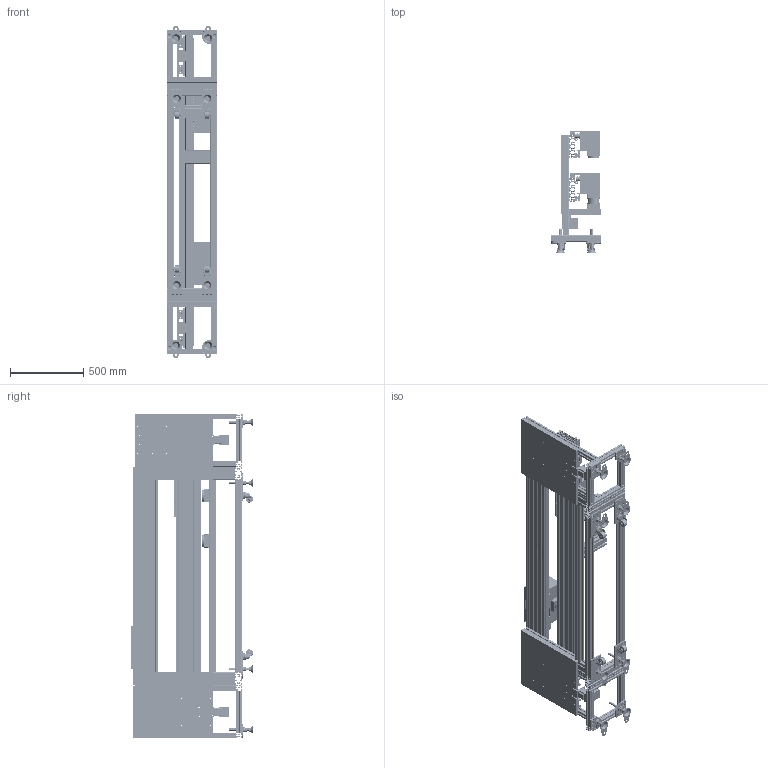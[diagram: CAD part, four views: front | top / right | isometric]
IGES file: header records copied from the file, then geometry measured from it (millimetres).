
Start section: SolidWorks IGES file using analytic representation for surfaces
Bounding box: 340 x 840 x 2271.94 mm (x, y, z)
Volume: 48709414 mm3; surface area: 17566709.5 mm2
Topology: 189 solids, 189 shells, 19055 faces, 52087 edges, 34178 vertices
Faces by surface type: plane 9868, revolution 9091, bspline 96
